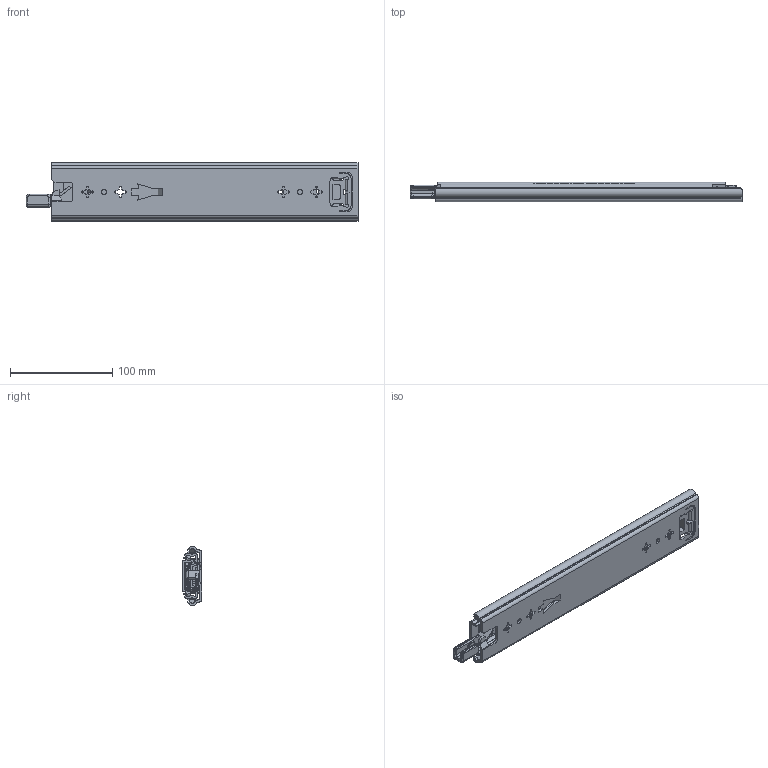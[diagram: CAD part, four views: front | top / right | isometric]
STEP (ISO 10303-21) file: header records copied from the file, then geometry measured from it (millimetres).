
FILE_DESCRIPTION((''),'2;1');
FILE_NAME('KP-57-01ZUZHUANGTU-12_ASM','2023-03-30T',('jishu015'),(''),'PRO/ENGINEER BY PARAMETRIC TECHNOLOGY CORPORATION, 2010280','PRO/ENGINEER BY PARAMETRIC TECHNOLOGY CORPORATION, 2010280','');
FILE_SCHEMA(('CONFIG_CONTROL_DESIGN'));
Length unit declared in the file: millimetre
Products named in the file (22): KP-57-01WEIKE-20____; 1057WEIJIAO____________________; WAIKE___________________ASM; KP-57-01ZHONGGUI-26_______; ZHONGGUIPEIJIAN-20____; ZHONGGUISUOKOU-18___; KP-57-01ZHONGGUI-26________ASM; 1057XIAOZHUJIA11__; 1057-5-6GANZHU1__; 1057XIAOZHUJIA-14GE26________ASM; KP-57-01NEIGUI-22_____; PJ-57-08__________________; DIAOPIAN-11__________________; 50XINSUOKOU-1__________________; TANHUANG__________________; 1053-3SBANJI122________________; JIAO11________________; KP-57-01NEIGUI-22______ASM; 1053ZHUTIAO-275_______; 53-5-6GANZHU1____; 1053ZHUTIAO-175MM111____ASM; KP-57-01ZUZHUANGTU-12_ASM
Assembly tree (39 placements, depth 3):
  KP-57-01ZUZHUANGTU-12_ASM
    WAIKE___________________ASM
      KP-57-01WEIKE-20____
      1057WEIJIAO____________________
    KP-57-01ZHONGGUI-26________ASM
      KP-57-01ZHONGGUI-26_______
      ZHONGGUIPEIJIAN-20____
      ZHONGGUISUOKOU-18___
    1057XIAOZHUJIA-14GE26________ASM
      1057XIAOZHUJIA11__
      1057-5-6GANZHU1__  x16
    KP-57-01NEIGUI-22______ASM
      KP-57-01NEIGUI-22_____
      PJ-57-08__________________
      DIAOPIAN-11__________________
      50XINSUOKOU-1__________________
      TANHUANG__________________
      1053-3SBANJI122________________
      JIAO11________________
    1053ZHUTIAO-175MM111____ASM  x2
      1053ZHUTIAO-275_______
      53-5-6GANZHU1____
Bounding box: 325.42 x 19 x 57.67 mm (x, y, z)
Volume: 129582.3 mm3; surface area: 138250 mm2
Topology: 39 solids, 39 shells, 1384 faces, 3879 edges, 2452 vertices
Faces by surface type: plane 615, cylinder 552, bspline 70, sphere 55, cone 44, torus 25, extrusion 23
Entity records: 47263 total; most frequent: CARTESIAN_POINT 12580, ORIENTED_EDGE 7326, DIRECTION 7090, EDGE_CURVE 3663, AXIS2_PLACEMENT_3D 2443, VERTEX_POINT 2360, VECTOR 2204, LINE 2181
